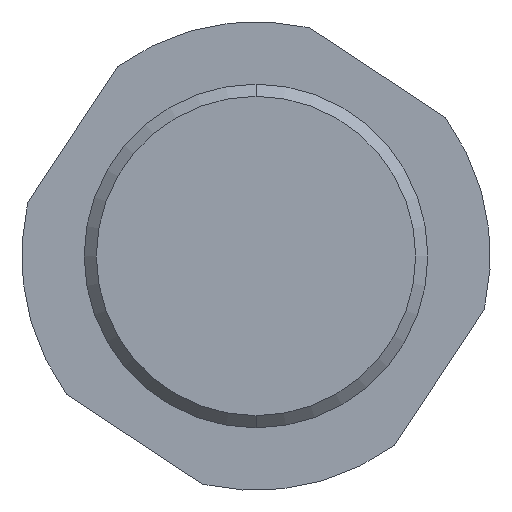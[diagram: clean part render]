
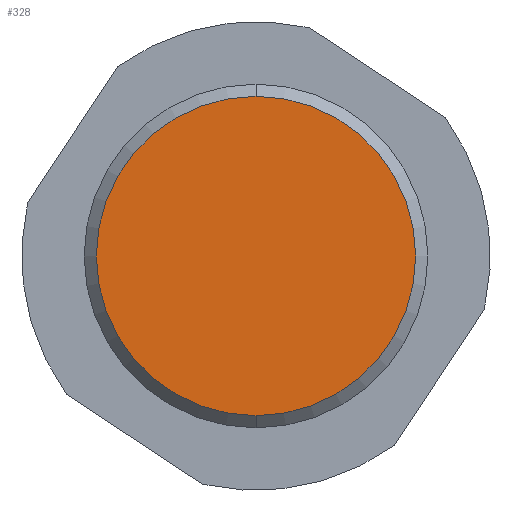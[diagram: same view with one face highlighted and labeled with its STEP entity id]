
A CAD part, front view. The second image highlights one B-rep face of the part: STEP entity #328.
In plain terms, the highlighted planar face has unit normal (0, -1, 0).
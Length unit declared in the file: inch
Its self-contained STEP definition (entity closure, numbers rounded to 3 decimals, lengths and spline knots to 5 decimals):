
#111 = ORIENTED_EDGE ( 'NONE', *, *, #424, .T. ) ;
#113 = ORIENTED_EDGE ( 'NONE', *, *, #391, .T. ) ;
#248 = VERTEX_POINT ( 'NONE', #1090 ) ;
#328 = ADVANCED_FACE ( 'NONE', ( #769 ), #1084, .T. ) ;
#350 = CARTESIAN_POINT ( 'NONE',  ( -3.93003, -1.15012, 0.8175 ) ) ;
#368 = AXIS2_PLACEMENT_3D ( 'NONE', #782, #890, #955 ) ;
#391 = EDGE_CURVE ( 'NONE', #248, #527, #668, .T. ) ;
#424 = EDGE_CURVE ( 'NONE', #527, #248, #724, .T. ) ;
#502 = EDGE_LOOP ( 'NONE', ( #111, #113 ) ) ;
#527 = VERTEX_POINT ( 'NONE', #350 ) ;
#575 = AXIS2_PLACEMENT_3D ( 'NONE', #1006, #1007, #1008 ) ;
#591 = AXIS2_PLACEMENT_3D ( 'NONE', #836, #834, #837 ) ;
#668 = CIRCLE ( 'NONE', #591, 0.8175 ) ;
#724 = CIRCLE ( 'NONE', #368, 0.8175 ) ;
#769 = FACE_OUTER_BOUND ( 'NONE', #502, .T. ) ;
#782 = CARTESIAN_POINT ( 'NONE',  ( -3.93003, -1.15012, 0. ) ) ;
#834 = DIRECTION ( 'NONE',  ( 0., -1., 0. ) ) ;
#836 = CARTESIAN_POINT ( 'NONE',  ( -3.93003, -1.15012, 0. ) ) ;
#837 = DIRECTION ( 'NONE',  ( 0., 0., -1. ) ) ;
#890 = DIRECTION ( 'NONE',  ( 0., -1., 0. ) ) ;
#955 = DIRECTION ( 'NONE',  ( 0., 0., -1. ) ) ;
#1006 = CARTESIAN_POINT ( 'NONE',  ( -3.24603, -1.15012, 0. ) ) ;
#1007 = DIRECTION ( 'NONE',  ( 0., -1., 0. ) ) ;
#1008 = DIRECTION ( 'NONE',  ( 0., 0., -1. ) ) ;
#1084 = PLANE ( 'NONE',  #575 ) ;
#1090 = CARTESIAN_POINT ( 'NONE',  ( -3.93003, -1.15012, -0.8175 ) ) ;
